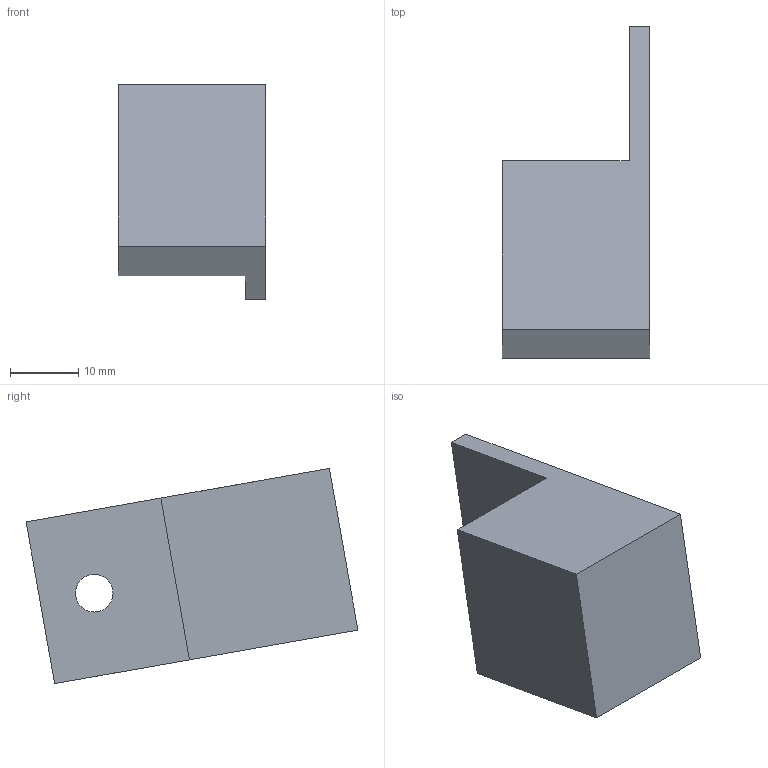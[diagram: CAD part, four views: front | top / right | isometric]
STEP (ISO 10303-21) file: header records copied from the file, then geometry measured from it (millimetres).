
FILE_DESCRIPTION(('golf model'),'2;1');
FILE_NAME('golf','',(''),(''),'golf_step_io','golf','');
FILE_SCHEMA(('AUTOMOTIVE_DESIGN { 1 0 10303 214 1 1 1 1 }'));
Length unit declared in the file: millimetre
Products named in the file (2): ASSEMBLY; sensors.z_target
Assembly tree (1 placements, depth 2):
  ASSEMBLY
    sensors.z_target
Bounding box: 21.5 x 48.48 x 31.45 mm (x, y, z)
Volume: 14268.7 mm3; surface area: 4391.3 mm2
Topology: 1 solids, 1 shells, 9 faces, 21 edges, 14 vertices
Faces by surface type: plane 8, cylinder 1
Full cylindrical faces by diameter (mm): 5.5 x1
Entity records: 290 total; most frequent: CARTESIAN_POINT 45, DIRECTION 44, ORIENTED_EDGE 40, EDGE_CURVE 20, VECTOR 18, LINE 18, VERTEX_POINT 14, AXIS2_PLACEMENT_3D 13
